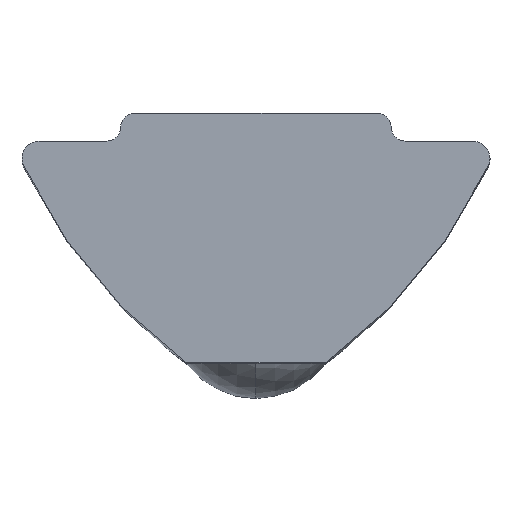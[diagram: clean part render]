
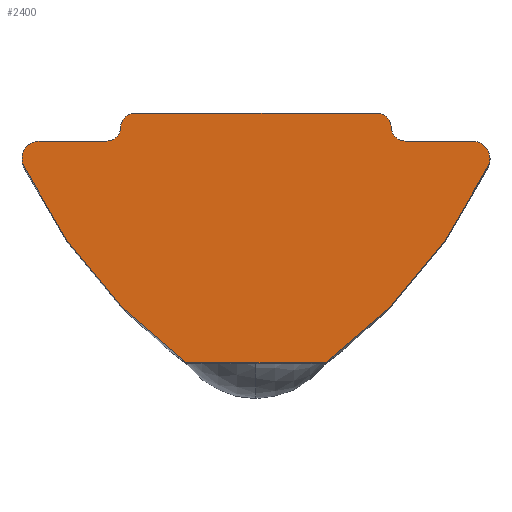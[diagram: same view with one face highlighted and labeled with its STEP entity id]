
A CAD part, top view. The second image highlights one B-rep face of the part: STEP entity #2400.
In plain terms, the highlighted planar face has unit normal (0, 0, 1).
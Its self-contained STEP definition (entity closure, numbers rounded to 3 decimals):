
#18 = DIRECTION ( 'NONE',  ( -1., 0., 0. ) ) ;
#43 = ORIENTED_EDGE ( 'NONE', *, *, #4416, .T. ) ;
#62 = CARTESIAN_POINT ( 'NONE',  ( 3.5, -0.4, 22. ) ) ;
#74 = VERTEX_POINT ( 'NONE', #700 ) ;
#84 = CARTESIAN_POINT ( 'NONE',  ( -2., -7.2, 22. ) ) ;
#95 = EDGE_CURVE ( 'NONE', #4109, #2196, #555, .T. ) ;
#112 = AXIS2_PLACEMENT_3D ( 'NONE', #2147, #4616, #2791 ) ;
#205 = DIRECTION ( 'NONE',  ( 0., 0., 1. ) ) ;
#240 = VERTEX_POINT ( 'NONE', #1688 ) ;
#259 = DIRECTION ( 'NONE',  ( -1., 0., 0. ) ) ;
#294 = DIRECTION ( 'NONE',  ( 0., 0., -1. ) ) ;
#316 = LINE ( 'NONE', #1857, #2880 ) ;
#385 = CIRCLE ( 'NONE', #1147, 0.4 ) ;
#448 = ORIENTED_EDGE ( 'NONE', *, *, #3296, .T. ) ;
#485 = VECTOR ( 'NONE', #18, 1000. ) ;
#527 = ORIENTED_EDGE ( 'NONE', *, *, #1582, .F. ) ;
#541 = AXIS2_PLACEMENT_3D ( 'NONE', #2927, #3696, #2625 ) ;
#555 = CIRCLE ( 'NONE', #112, 0.4 ) ;
#581 = CARTESIAN_POINT ( 'NONE',  ( -3.9, -0.4, 22. ) ) ;
#631 = EDGE_CURVE ( 'NONE', #1607, #240, #698, .T. ) ;
#635 = ORIENTED_EDGE ( 'NONE', *, *, #3010, .T. ) ;
#693 = DIRECTION ( 'NONE',  ( 0., 0., 1. ) ) ;
#698 = LINE ( 'NONE', #2881, #485 ) ;
#700 = CARTESIAN_POINT ( 'NONE',  ( 6.25, -0.8, 22. ) ) ;
#825 = ORIENTED_EDGE ( 'NONE', *, *, #2915, .F. ) ;
#874 = ORIENTED_EDGE ( 'NONE', *, *, #3204, .T. ) ;
#906 = CIRCLE ( 'NONE', #2045, 0.5 ) ;
#934 = LINE ( 'NONE', #3458, #2805 ) ;
#991 = AXIS2_PLACEMENT_3D ( 'NONE', #62, #2118, #3933 ) ;
#1071 = EDGE_CURVE ( 'NONE', #74, #2029, #2676, .T. ) ;
#1147 = AXIS2_PLACEMENT_3D ( 'NONE', #2862, #4640, #259 ) ;
#1175 = DIRECTION ( 'NONE',  ( 1., 0., 0. ) ) ;
#1269 = CARTESIAN_POINT ( 'NONE',  ( 6.25, -1.3, 22. ) ) ;
#1289 = AXIS2_PLACEMENT_3D ( 'NONE', #2806, #294, #2450 ) ;
#1398 = CARTESIAN_POINT ( 'NONE',  ( -6.25, -0.8, 22. ) ) ;
#1433 = CARTESIAN_POINT ( 'NONE',  ( 6.702, -1.514, 22. ) ) ;
#1454 = CARTESIAN_POINT ( 'NONE',  ( 2., -7.2, 22. ) ) ;
#1474 = VERTEX_POINT ( 'NONE', #1433 ) ;
#1485 = DIRECTION ( 'NONE',  ( 0., 0., -1. ) ) ;
#1515 = ORIENTED_EDGE ( 'NONE', *, *, #631, .T. ) ;
#1582 = EDGE_CURVE ( 'NONE', #4109, #240, #4388, .T. ) ;
#1607 = VERTEX_POINT ( 'NONE', #2626 ) ;
#1688 = CARTESIAN_POINT ( 'NONE',  ( -3.5, 0., 22. ) ) ;
#1748 = CARTESIAN_POINT ( 'NONE',  ( -4.3, -0.8, 22. ) ) ;
#1789 = ORIENTED_EDGE ( 'NONE', *, *, #3292, .F. ) ;
#1806 = CARTESIAN_POINT ( 'NONE',  ( 6.854, 4.908, 22. ) ) ;
#1824 = CIRCLE ( 'NONE', #4231, 15. ) ;
#1857 = CARTESIAN_POINT ( 'NONE',  ( -6.25, -7.2, 22. ) ) ;
#1891 = VERTEX_POINT ( 'NONE', #3836 ) ;
#1957 = CARTESIAN_POINT ( 'NONE',  ( -6.25, -0.8, 22. ) ) ;
#2000 = DIRECTION ( 'NONE',  ( 1., 0., 0. ) ) ;
#2029 = VERTEX_POINT ( 'NONE', #3085 ) ;
#2045 = AXIS2_PLACEMENT_3D ( 'NONE', #2209, #693, #2140 ) ;
#2046 = DIRECTION ( 'NONE',  ( 0., 0., -1. ) ) ;
#2066 = ORIENTED_EDGE ( 'NONE', *, *, #1071, .T. ) ;
#2118 = DIRECTION ( 'NONE',  ( 0., 0., -1. ) ) ;
#2140 = DIRECTION ( 'NONE',  ( 1., 0., 0. ) ) ;
#2147 = CARTESIAN_POINT ( 'NONE',  ( -4.3, -0.4, 22. ) ) ;
#2196 = VERTEX_POINT ( 'NONE', #1748 ) ;
#2197 = CIRCLE ( 'NONE', #991, 0.4 ) ;
#2209 = CARTESIAN_POINT ( 'NONE',  ( 6.25, -1.3, 22. ) ) ;
#2227 = EDGE_CURVE ( 'NONE', #3495, #74, #4012, .T. ) ;
#2230 = EDGE_LOOP ( 'NONE', ( #448, #4176, #2066, #43, #1789, #1515, #527, #3362, #635, #825, #4046, #874, #3586 ) ) ;
#2272 = DIRECTION ( 'NONE',  ( -1., 0., 0. ) ) ;
#2400 = ADVANCED_FACE ( 'NONE', ( #3346 ), #3299, .T. ) ;
#2427 = AXIS2_PLACEMENT_3D ( 'NONE', #3506, #2046, #2000 ) ;
#2450 = DIRECTION ( 'NONE',  ( 1., 0., 0. ) ) ;
#2619 = VECTOR ( 'NONE', #2272, 1000. ) ;
#2625 = DIRECTION ( 'NONE',  ( 1., 0., 0. ) ) ;
#2626 = CARTESIAN_POINT ( 'NONE',  ( 3.5, 0., 22. ) ) ;
#2676 = LINE ( 'NONE', #1957, #2619 ) ;
#2791 = DIRECTION ( 'NONE',  ( -1., 0., 0. ) ) ;
#2805 = VECTOR ( 'NONE', #4607, 1000. ) ;
#2806 = CARTESIAN_POINT ( 'NONE',  ( -6.854, 4.908, 22. ) ) ;
#2811 = AXIS2_PLACEMENT_3D ( 'NONE', #4405, #1485, #1175 ) ;
#2862 = CARTESIAN_POINT ( 'NONE',  ( 4.3, -0.4, 22. ) ) ;
#2880 = VECTOR ( 'NONE', #4631, 1000. ) ;
#2881 = CARTESIAN_POINT ( 'NONE',  ( -6.25, 0., 22. ) ) ;
#2915 = EDGE_CURVE ( 'NONE', #3100, #3998, #4301, .T. ) ;
#2927 = CARTESIAN_POINT ( 'NONE',  ( -6.25, -1.3, 22. ) ) ;
#3010 = EDGE_CURVE ( 'NONE', #2196, #3998, #934, .T. ) ;
#3085 = CARTESIAN_POINT ( 'NONE',  ( 4.3, -0.8, 22. ) ) ;
#3100 = VERTEX_POINT ( 'NONE', #3910 ) ;
#3104 = EDGE_CURVE ( 'NONE', #1474, #3169, #3402, .T. ) ;
#3169 = VERTEX_POINT ( 'NONE', #1454 ) ;
#3204 = EDGE_CURVE ( 'NONE', #3383, #3169, #316, .T. ) ;
#3292 = EDGE_CURVE ( 'NONE', #1607, #1891, #2197, .T. ) ;
#3296 = EDGE_CURVE ( 'NONE', #1474, #3495, #906, .T. ) ;
#3299 = PLANE ( 'NONE',  #541 ) ;
#3336 = AXIS2_PLACEMENT_3D ( 'NONE', #1269, #205, #3820 ) ;
#3346 = FACE_OUTER_BOUND ( 'NONE', #2230, .T. ) ;
#3362 = ORIENTED_EDGE ( 'NONE', *, *, #95, .T. ) ;
#3383 = VERTEX_POINT ( 'NONE', #84 ) ;
#3402 = CIRCLE ( 'NONE', #1289, 15. ) ;
#3458 = CARTESIAN_POINT ( 'NONE',  ( -6.25, -0.8, 22. ) ) ;
#3495 = VERTEX_POINT ( 'NONE', #4468 ) ;
#3506 = CARTESIAN_POINT ( 'NONE',  ( -6.25, -1.3, 22. ) ) ;
#3586 = ORIENTED_EDGE ( 'NONE', *, *, #3104, .F. ) ;
#3611 = DIRECTION ( 'NONE',  ( 0., 0., 1. ) ) ;
#3696 = DIRECTION ( 'NONE',  ( 0., 0., 1. ) ) ;
#3756 = EDGE_CURVE ( 'NONE', #3100, #3383, #1824, .T. ) ;
#3820 = DIRECTION ( 'NONE',  ( 1., 0., 0. ) ) ;
#3836 = CARTESIAN_POINT ( 'NONE',  ( 3.9, -0.4, 22. ) ) ;
#3910 = CARTESIAN_POINT ( 'NONE',  ( -6.702, -1.514, 22. ) ) ;
#3933 = DIRECTION ( 'NONE',  ( 1., 0., 0. ) ) ;
#3972 = DIRECTION ( 'NONE',  ( 1., 0., 0. ) ) ;
#3998 = VERTEX_POINT ( 'NONE', #1398 ) ;
#4012 = CIRCLE ( 'NONE', #3336, 0.5 ) ;
#4046 = ORIENTED_EDGE ( 'NONE', *, *, #3756, .T. ) ;
#4109 = VERTEX_POINT ( 'NONE', #581 ) ;
#4176 = ORIENTED_EDGE ( 'NONE', *, *, #2227, .T. ) ;
#4231 = AXIS2_PLACEMENT_3D ( 'NONE', #1806, #3611, #3972 ) ;
#4301 = CIRCLE ( 'NONE', #2427, 0.5 ) ;
#4388 = CIRCLE ( 'NONE', #2811, 0.4 ) ;
#4405 = CARTESIAN_POINT ( 'NONE',  ( -3.5, -0.4, 22. ) ) ;
#4416 = EDGE_CURVE ( 'NONE', #2029, #1891, #385, .T. ) ;
#4468 = CARTESIAN_POINT ( 'NONE',  ( 6.75, -1.3, 22. ) ) ;
#4607 = DIRECTION ( 'NONE',  ( -1., 0., 0. ) ) ;
#4616 = DIRECTION ( 'NONE',  ( 0., 0., -1. ) ) ;
#4631 = DIRECTION ( 'NONE',  ( 1., 0., 0. ) ) ;
#4640 = DIRECTION ( 'NONE',  ( 0., 0., -1. ) ) ;
